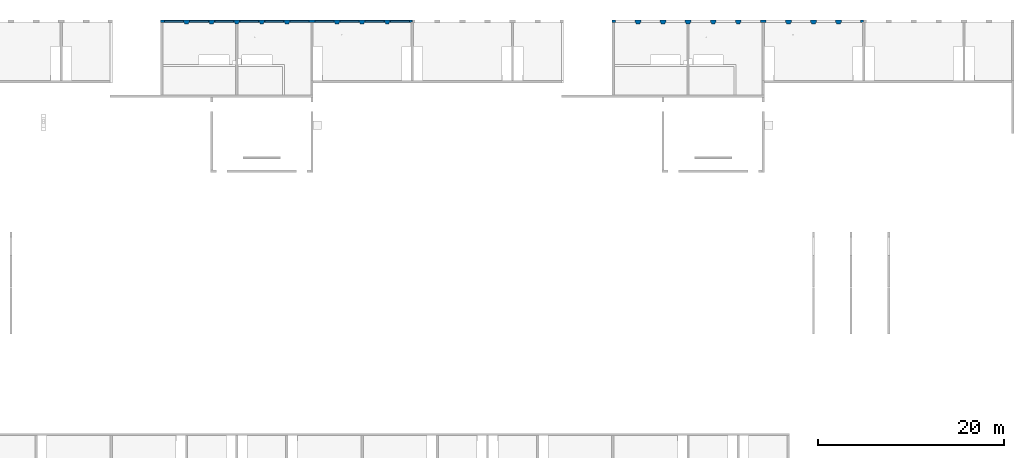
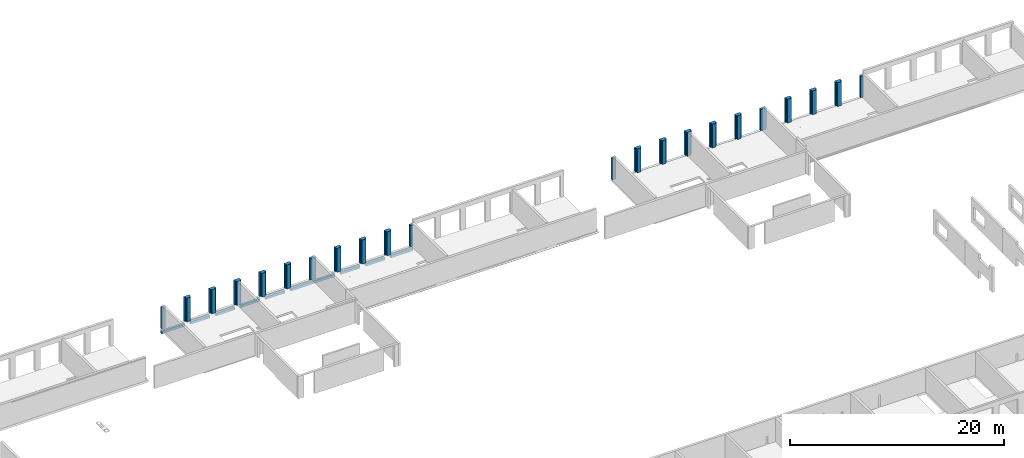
# One storey, part 1 of 12: 22 columns, 1 beam.
"""IFC2X3 building model written with IfcOpenShell, lengths in millimetres."""

from ifc_helpers import new_model, entity, si_unit, converted_unit, derived_unit, direction, frame, frame_2d, origin, origin_2d_with_axis, place, context, subcontext, project, spatial, polyline, rectangle, outline, extrude, source, transform, mapped, material, type_object, type_shapes, element, save


model = new_model("IFC2X3")

# Units and contexts
model_context = context("Model", 3, precision=0.01, world=origin(), true_north=direction((6.12303176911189e-17, 1.0)))
body_context = subcontext(model_context, "Body", "Model", "MODEL_VIEW")
ifc_project = project(units=[si_unit("LENGTHUNIT", "METRE", prefix="MILLI"), si_unit("AREAUNIT", "SQUARE_METRE"), si_unit("VOLUMEUNIT", "CUBIC_METRE"), converted_unit("PLANEANGLEUNIT", "DEGREE", entity("IfcRatioMeasure", 0.0174532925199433), si_unit("PLANEANGLEUNIT", "RADIAN"), dimensions=[0, 0, 0, 0, 0, 0, 0]), si_unit("MASSUNIT", "GRAM", prefix="KILO"), derived_unit("MASSDENSITYUNIT", [(si_unit("MASSUNIT", "GRAM", prefix="KILO"), 1), (si_unit("LENGTHUNIT", "METRE"), -3)]), si_unit("TIMEUNIT", "SECOND"), si_unit("FREQUENCYUNIT", "HERTZ"), si_unit("THERMODYNAMICTEMPERATUREUNIT", "DEGREE_CELSIUS"), derived_unit("THERMALTRANSMITTANCEUNIT", [(si_unit("MASSUNIT", "GRAM", prefix="KILO"), 1), (si_unit("THERMODYNAMICTEMPERATUREUNIT", "KELVIN"), -1), (si_unit("TIMEUNIT", "SECOND"), -3)]), derived_unit("VOLUMETRICFLOWRATEUNIT", [(si_unit("LENGTHUNIT", "METRE"), 3), (si_unit("TIMEUNIT", "SECOND"), -1)]), si_unit("ELECTRICCURRENTUNIT", "AMPERE"), si_unit("ELECTRICVOLTAGEUNIT", "VOLT"), si_unit("POWERUNIT", "WATT"), si_unit("FORCEUNIT", "NEWTON", prefix="KILO"), si_unit("ILLUMINANCEUNIT", "LUX"), si_unit("LUMINOUSFLUXUNIT", "LUMEN"), si_unit("LUMINOUSINTENSITYUNIT", "CANDELA"), derived_unit("USERDEFINED", [(si_unit("MASSUNIT", "GRAM", prefix="KILO"), -1), (si_unit("LENGTHUNIT", "METRE"), -2), (si_unit("TIMEUNIT", "SECOND"), 3), (si_unit("LUMINOUSFLUXUNIT", "LUMEN"), 1)]), derived_unit("LINEARVELOCITYUNIT", [(si_unit("LENGTHUNIT", "METRE"), 1), (si_unit("TIMEUNIT", "SECOND"), -1)]), si_unit("PRESSUREUNIT", "PASCAL"), derived_unit("USERDEFINED", [(si_unit("LENGTHUNIT", "METRE"), -2), (si_unit("MASSUNIT", "GRAM", prefix="KILO"), 1), (si_unit("TIMEUNIT", "SECOND"), -2)])], contexts=[model_context])

# Site, building, storey
site_placement = place(None, origin())
site = spatial("IfcSite", under=ifc_project, at=site_placement, Name="Default", CompositionType="ELEMENT")
building_placement = place(site_placement, origin())
building = spatial("IfcBuilding", under=site, at=building_placement, Name="niet gebruiken", CompositionType="ELEMENT")
storey_placement = place(building_placement, frame((0.0, 0.0, 6660.0)))
storey = spatial("IfcBuildingStorey", under=building, at=storey_placement, Name="02 tweede verdieping", CompositionType="ELEMENT", Elevation=6660.00000000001)

# Columns
ifc_material = material(Name="NLRS_f2_beton ihwg")
column_type_1 = type_object("IfcColumnType", Name="620x410/105x160/105x160", PredefinedType="COLUMN", material=ifc_material)
shared_shape_1 = source(origin(), body_context, "Body", "SweptSolid", [
    extrude(outline(polyline([(-227.499999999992, -310.0), (22.5000000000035, -310.0), (22.5000000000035, -205.0), (182.500000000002, -205.0), (182.500000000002, 205.0), (22.5000000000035, 205.0), (22.5000000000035, 310.0), (-227.499999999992, 310.0), (-227.499999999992, -310.0)])), frame((54000.0, 53028.5, 6570.0), z_axis=(0.0, 0.0, 1.0), x_axis=(0.0, -1.0, 0.0)), (0.0, 0.0, 1.0), 2720.0),
])
type_shapes(column_type_1, [shared_shape_1])
column_1_placement = place(storey_placement, frame((0.0, 0.0, -6660.0)))
element("IfcColumn", 1, at=column_1_placement, inside=storey, type_object=column_type_1, material=ifc_material, Name="NLRS_28.11_SCO_TLB_beton kolom ihwg dubbele sponning_gen:620x410/105x160/105x160", ObjectType="620x410/105x160/105x160", context=body_context, shape_type="MappedRepresentation", body=[
    mapped(shared_shape_1, transform((0.0, 0.0, 0.0), scale=1.0)),
])
column_type_2 = type_object("IfcColumnType", Name="620x410/105x160/105x160", PredefinedType="COLUMN", material=ifc_material)
shared_shape_2 = source(origin(), body_context, "Body", "SweptSolid", [
    extrude(outline(polyline([(-227.499999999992, -310.0), (22.5000000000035, -310.0), (22.5000000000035, -205.0), (182.500000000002, -205.0), (182.500000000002, 205.0), (22.5000000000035, 205.0), (22.5000000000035, 310.0), (-227.499999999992, 310.0), (-227.499999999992, -310.0)])), frame((51300.0, 53028.5, 6570.0), z_axis=(0.0, 0.0, 1.0), x_axis=(0.0, -1.0, 0.0)), (0.0, 0.0, 1.0), 2720.0),
])
type_shapes(column_type_2, [shared_shape_2])
column_2_placement = place(storey_placement, frame((0.0, 0.0, -6660.0)))
element("IfcColumn", 2, at=column_2_placement, inside=storey, type_object=column_type_2, material=ifc_material, Name="NLRS_28.11_SCO_TLB_beton kolom ihwg dubbele sponning_gen:620x410/105x160/105x160", ObjectType="620x410/105x160/105x160", context=body_context, shape_type="MappedRepresentation", body=[
    mapped(shared_shape_2, transform((0.0, 0.0, 0.0), scale=1.0)),
])
column_type_3 = type_object("IfcColumnType", Name="620x410/105x160/105x160", PredefinedType="COLUMN", material=ifc_material)
shared_shape_3 = source(origin(), body_context, "Body", "SweptSolid", [
    extrude(outline(polyline([(-227.499999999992, -310.0), (22.5000000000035, -310.0), (22.5000000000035, -205.0), (182.500000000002, -205.0), (182.500000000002, 205.0), (22.5000000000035, 205.0), (22.5000000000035, 310.0), (-227.499999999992, 310.0), (-227.499999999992, -310.0)])), frame((45900.0, 53028.5, 6570.0), z_axis=(0.0, 0.0, 1.0), x_axis=(0.0, -1.0, 0.0)), (0.0, 0.0, 1.0), 2720.0),
])
type_shapes(column_type_3, [shared_shape_3])
column_3_placement = place(storey_placement, frame((0.0, 0.0, -6660.0)))
element("IfcColumn", 3, at=column_3_placement, inside=storey, type_object=column_type_3, material=ifc_material, Name="NLRS_28.11_SCO_TLB_beton kolom ihwg dubbele sponning_gen:620x410/105x160/105x160", ObjectType="620x410/105x160/105x160", context=body_context, shape_type="MappedRepresentation", body=[
    mapped(shared_shape_3, transform((0.0, 0.0, 0.0), scale=1.0)),
])
column_type_4 = type_object("IfcColumnType", Name="620x410/105x160/105x160", PredefinedType="COLUMN", material=ifc_material)
shared_shape_4 = source(origin(), body_context, "Body", "SweptSolid", [
    extrude(outline(polyline([(-227.499999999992, -310.0), (22.5000000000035, -310.0), (22.5000000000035, -205.0), (182.500000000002, -205.0), (182.500000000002, 205.0), (22.5000000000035, 205.0), (22.5000000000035, 310.0), (-227.499999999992, 310.0), (-227.499999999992, -310.0)])), frame((43200.0, 53028.5, 6570.0), z_axis=(0.0, 0.0, 1.0), x_axis=(0.0, -1.0, 0.0)), (0.0, 0.0, 1.0), 2720.0),
])
type_shapes(column_type_4, [shared_shape_4])
column_4_placement = place(storey_placement, frame((0.0, 0.0, -6660.0)))
element("IfcColumn", 4, at=column_4_placement, inside=storey, type_object=column_type_4, material=ifc_material, Name="NLRS_28.11_SCO_TLB_beton kolom ihwg dubbele sponning_gen:620x410/105x160/105x160", ObjectType="620x410/105x160/105x160", context=body_context, shape_type="MappedRepresentation", body=[
    mapped(shared_shape_4, transform((0.0, 0.0, 0.0), scale=1.0)),
])
column_type_5 = type_object("IfcColumnType", Name="620x410/105x160/105x160", PredefinedType="COLUMN", material=ifc_material)
shared_shape_5 = source(origin(), body_context, "Body", "SweptSolid", [
    extrude(outline(polyline([(-227.499999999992, -310.0), (22.5000000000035, -310.0), (22.5000000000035, -205.0), (182.500000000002, -205.0), (182.500000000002, 205.0), (22.5000000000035, 205.0), (22.5000000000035, 310.0), (-227.499999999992, 310.0), (-227.499999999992, -310.0)])), frame((40500.0, 53028.5, 6570.0), z_axis=(0.0, 0.0, 1.0), x_axis=(0.0, -1.0, 0.0)), (0.0, 0.0, 1.0), 2720.0),
])
type_shapes(column_type_5, [shared_shape_5])
column_5_placement = place(storey_placement, frame((0.0, 0.0, -6660.0)))
element("IfcColumn", 5, at=column_5_placement, inside=storey, type_object=column_type_5, material=ifc_material, Name="NLRS_28.11_SCO_TLB_beton kolom ihwg dubbele sponning_gen:620x410/105x160/105x160", ObjectType="620x410/105x160/105x160", context=body_context, shape_type="MappedRepresentation", body=[
    mapped(shared_shape_5, transform((0.0, 0.0, 0.0), scale=1.0)),
])
column_type_6 = type_object("IfcColumnType", Name="620x410/105x160/105x160", PredefinedType="COLUMN", material=ifc_material)
shared_shape_6 = source(origin(), body_context, "Body", "SweptSolid", [
    extrude(outline(polyline([(-227.5, -310.0), (22.4999999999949, -310.0), (22.4999999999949, -205.0), (182.499999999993, -205.0), (182.499999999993, 205.0), (22.4999999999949, 205.0), (22.4999999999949, 310.0), (-227.5, 310.0), (-227.5, -310.0)])), frame((37800.0, 53028.5, 6570.0), z_axis=(0.0, 0.0, 1.0), x_axis=(0.0, -1.0, 0.0)), (0.0, 0.0, 1.0), 2720.0),
])
type_shapes(column_type_6, [shared_shape_6])
column_6_placement = place(storey_placement, frame((0.0, 0.0, -6660.0)))
element("IfcColumn", 6, at=column_6_placement, inside=storey, type_object=column_type_6, material=ifc_material, Name="NLRS_28.11_SCO_TLB_beton kolom ihwg dubbele sponning_gen:620x410/105x160/105x160", ObjectType="620x410/105x160/105x160", context=body_context, shape_type="MappedRepresentation", body=[
    mapped(shared_shape_6, transform((0.0, 0.0, 0.0), scale=1.0)),
])
column_type_7 = type_object("IfcColumnType", Name="620x410/105x160/105x160", PredefinedType="COLUMN", material=ifc_material)
shared_shape_7 = source(origin(), body_context, "Body", "SweptSolid", [
    extrude(outline(polyline([(-227.5, -310.0), (22.4999999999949, -310.0), (22.4999999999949, -205.0), (182.499999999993, -205.0), (182.499999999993, 205.0), (22.4999999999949, 205.0), (22.4999999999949, 310.0), (-227.5, 310.0), (-227.5, -310.0)])), frame((35100.0, 53028.5, 6570.0), z_axis=(0.0, 0.0, 1.0), x_axis=(0.0, -1.0, 0.0)), (0.0, 0.0, 1.0), 2720.0),
])
type_shapes(column_type_7, [shared_shape_7])
column_7_placement = place(storey_placement, frame((0.0, 0.0, -6660.0)))
element("IfcColumn", 7, at=column_7_placement, inside=storey, type_object=column_type_7, material=ifc_material, Name="NLRS_28.11_SCO_TLB_beton kolom ihwg dubbele sponning_gen:620x410/105x160/105x160", ObjectType="620x410/105x160/105x160", context=body_context, shape_type="MappedRepresentation", body=[
    mapped(shared_shape_7, transform((0.0, 0.0, 0.0), scale=1.0)),
])
column_type_8 = type_object("IfcColumnType", Name="410x250", PredefinedType="COLUMN", material=ifc_material)
shared_shape_8 = source(origin(), body_context, "Body", "SweptSolid", [
    extrude(rectangle(XDim=250.000000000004, YDim=410.000000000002, at=origin_2d_with_axis()), frame((32505.0, 53131.0, 6570.0), z_axis=(0.0, 0.0, 1.0), x_axis=(0.0, -1.0, 0.0)), (0.0, 0.0, 1.0), 2440.0),
])
type_shapes(column_type_8, [shared_shape_8])
column_8_placement = place(storey_placement, frame((0.0, 0.0, -6660.0)))
element("IfcColumn", 8, at=column_8_placement, inside=storey, type_object=column_type_8, material=ifc_material, Name="NLRS_28.11_SCO_TLB_beton kolom ihwg_gen:410x250", ObjectType="410x250", context=body_context, shape_type="MappedRepresentation", body=[
    mapped(shared_shape_8, transform((0.0, 0.0, 0.0), scale=1.0)),
])
column_type_9 = type_object("IfcColumnType", Name="620x250", PredefinedType="COLUMN", material=ifc_material)
shared_shape_9 = source(origin(), body_context, "Body", "SweptSolid", [
    extrude(rectangle(XDim=250.000000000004, YDim=619.999999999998, at=origin_2d_with_axis()), frame((48600.0, 53131.0, 6570.0), z_axis=(0.0, 0.0, 1.0), x_axis=(0.0, -1.0, 0.0)), (0.0, 0.0, 1.0), 2440.0),
])
type_shapes(column_type_9, [shared_shape_9])
column_9_placement = place(storey_placement, frame((0.0, 0.0, -6660.0)))
element("IfcColumn", 9, at=column_9_placement, inside=storey, type_object=column_type_9, material=ifc_material, Name="NLRS_28.11_SCO_TLB_beton kolom ihwg_gen:620x250", ObjectType="620x250", context=body_context, shape_type="MappedRepresentation", body=[
    mapped(shared_shape_9, transform((0.0, 0.0, 0.0), scale=1.0)),
])
column_type_10 = type_object("IfcColumnType", Name="620x410/105x160/105x160", PredefinedType="COLUMN", material=ifc_material)
shared_shape_10 = source(origin(), body_context, "Body", "SweptSolid", [
    extrude(outline(polyline([(-227.5, -310.0), (22.4999999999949, -310.0), (22.4999999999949, -205.0), (182.499999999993, -205.0), (182.499999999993, 205.0), (22.4999999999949, 205.0), (22.4999999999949, 310.0), (-227.5, 310.0), (-227.5, -310.0)])), frame((56700.0, 53028.5, 6570.0), z_axis=(0.0, 0.0, 1.0), x_axis=(0.0, -1.0, 0.0)), (0.0, 0.0, 1.0), 2720.0),
])
type_shapes(column_type_10, [shared_shape_10])
column_10_placement = place(storey_placement, frame((0.0, 0.0, -6660.0)))
element("IfcColumn", 10, at=column_10_placement, inside=storey, type_object=column_type_10, material=ifc_material, Name="NLRS_28.11_SCO_TLB_beton kolom ihwg dubbele sponning_gen:620x410/105x160/105x160", ObjectType="620x410/105x160/105x160", context=body_context, shape_type="MappedRepresentation", body=[
    mapped(shared_shape_10, transform((0.0, 0.0, 0.0), scale=1.0)),
])
column_type_11 = type_object("IfcColumnType", Name="620x410/105x160/105x160", PredefinedType="COLUMN", material=ifc_material)
shared_shape_11 = source(origin(), body_context, "Body", "SweptSolid", [
    extrude(outline(polyline([(-227.5, -310.0), (22.4999999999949, -310.0), (22.4999999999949, -205.0), (182.499999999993, -205.0), (182.499999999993, 205.0), (22.4999999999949, 205.0), (22.4999999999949, 310.0), (-227.5, 310.0), (-227.5, -310.0)])), frame((102600.0, 53028.4999999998, 6570.0), z_axis=(0.0, 0.0, 1.0), x_axis=(0.0, -1.0, 0.0)), (0.0, 0.0, 1.0), 2720.0),
])
type_shapes(column_type_11, [shared_shape_11])
column_11_placement = place(storey_placement, frame((0.0, 0.0, -6660.0)))
element("IfcColumn", 11, at=column_11_placement, inside=storey, type_object=column_type_11, material=ifc_material, Name="NLRS_28.11_SCO_TLB_beton kolom ihwg dubbele sponning_gen:620x410/105x160/105x160", ObjectType="620x410/105x160/105x160", context=body_context, shape_type="MappedRepresentation", body=[
    mapped(shared_shape_11, transform((0.0, 0.0, 0.0), scale=1.0)),
])
column_type_12 = type_object("IfcColumnType", Name="620x410/105x160/105x160", PredefinedType="COLUMN", material=ifc_material)
shared_shape_12 = source(origin(), body_context, "Body", "SweptSolid", [
    extrude(outline(polyline([(-227.499999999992, -310.0), (22.5000000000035, -310.0), (22.5000000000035, -205.0), (182.500000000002, -205.0), (182.500000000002, 205.0), (22.5000000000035, 205.0), (22.5000000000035, 310.0), (-227.499999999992, 310.0), (-227.499999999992, -310.0)])), frame((99900.0, 53028.4999999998, 6570.0), z_axis=(0.0, 0.0, 1.0), x_axis=(0.0, -1.0, 0.0)), (0.0, 0.0, 1.0), 2720.0),
])
type_shapes(column_type_12, [shared_shape_12])
column_12_placement = place(storey_placement, frame((0.0, 0.0, -6660.0)))
element("IfcColumn", 12, at=column_12_placement, inside=storey, type_object=column_type_12, material=ifc_material, Name="NLRS_28.11_SCO_TLB_beton kolom ihwg dubbele sponning_gen:620x410/105x160/105x160", ObjectType="620x410/105x160/105x160", context=body_context, shape_type="MappedRepresentation", body=[
    mapped(shared_shape_12, transform((0.0, 0.0, 0.0), scale=1.0)),
])
column_type_13 = type_object("IfcColumnType", Name="620x410/105x160/105x160", PredefinedType="COLUMN", material=ifc_material)
shared_shape_13 = source(origin(), body_context, "Body", "SweptSolid", [
    extrude(outline(polyline([(-227.499999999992, -310.0), (22.5000000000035, -310.0), (22.5000000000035, -205.0), (182.500000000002, -205.0), (182.500000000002, 205.0), (22.5000000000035, 205.0), (22.5000000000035, 310.0), (-227.499999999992, 310.0), (-227.499999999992, -310.0)])), frame((94500.0, 53028.4999999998, 6570.0), z_axis=(0.0, 0.0, 1.0), x_axis=(0.0, -1.0, 0.0)), (0.0, 0.0, 1.0), 2720.0),
])
type_shapes(column_type_13, [shared_shape_13])
column_13_placement = place(storey_placement, frame((0.0, 0.0, -6660.0)))
element("IfcColumn", 13, at=column_13_placement, inside=storey, type_object=column_type_13, material=ifc_material, Name="NLRS_28.11_SCO_TLB_beton kolom ihwg dubbele sponning_gen:620x410/105x160/105x160", ObjectType="620x410/105x160/105x160", context=body_context, shape_type="MappedRepresentation", body=[
    mapped(shared_shape_13, transform((0.0, 0.0, 0.0), scale=1.0)),
])
column_type_14 = type_object("IfcColumnType", Name="620x410/105x160/105x160", PredefinedType="COLUMN", material=ifc_material)
shared_shape_14 = source(origin(), body_context, "Body", "SweptSolid", [
    extrude(outline(polyline([(-227.499999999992, -310.0), (22.5000000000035, -310.0), (22.5000000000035, -205.0), (182.500000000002, -205.0), (182.500000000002, 205.0), (22.4999999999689, 205.0), (22.5000000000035, 310.0), (-227.499999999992, 310.0), (-227.499999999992, -310.0)])), frame((91800.0, 53028.4999999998, 6570.0), z_axis=(0.0, 0.0, 1.0), x_axis=(0.0, -1.0, 0.0)), (0.0, 0.0, 1.0), 2719.99999999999),
])
type_shapes(column_type_14, [shared_shape_14])
column_14_placement = place(storey_placement, frame((0.0, 0.0, -6660.0)))
element("IfcColumn", 14, at=column_14_placement, inside=storey, type_object=column_type_14, material=ifc_material, Name="NLRS_28.11_SCO_TLB_beton kolom ihwg dubbele sponning_gen:620x410/105x160/105x160", ObjectType="620x410/105x160/105x160", context=body_context, shape_type="MappedRepresentation", body=[
    mapped(shared_shape_14, transform((0.0, 0.0, 0.0), scale=1.0)),
])
column_type_15 = type_object("IfcColumnType", Name="620x410/105x160/105x160", PredefinedType="COLUMN", material=ifc_material)
shared_shape_15 = source(origin(), body_context, "Body", "SweptSolid", [
    extrude(outline(polyline([(-227.499999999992, -310.0), (22.5000000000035, -310.0), (22.5000000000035, -205.0), (182.500000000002, -205.0), (182.500000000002, 205.0), (22.5000000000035, 205.0), (22.5000000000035, 310.0), (-227.499999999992, 310.0), (-227.499999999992, -310.0)])), frame((89100.0, 53028.4999999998, 6570.0), z_axis=(0.0, 0.0, 1.0), x_axis=(0.0, -1.0, 0.0)), (0.0, 0.0, 1.0), 2720.0),
])
type_shapes(column_type_15, [shared_shape_15])
column_15_placement = place(storey_placement, frame((0.0, 0.0, -6660.0)))
element("IfcColumn", 15, at=column_15_placement, inside=storey, type_object=column_type_15, material=ifc_material, Name="NLRS_28.11_SCO_TLB_beton kolom ihwg dubbele sponning_gen:620x410/105x160/105x160", ObjectType="620x410/105x160/105x160", context=body_context, shape_type="MappedRepresentation", body=[
    mapped(shared_shape_15, transform((0.0, 0.0, 0.0), scale=1.0)),
])
column_type_16 = type_object("IfcColumnType", Name="620x410/105x160/105x160", PredefinedType="COLUMN", material=ifc_material)
shared_shape_16 = source(origin(), body_context, "Body", "SweptSolid", [
    extrude(outline(polyline([(-227.499999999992, -310.0), (22.5000000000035, -310.0), (22.5000000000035, -205.0), (182.500000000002, -205.0), (182.500000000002, 205.0), (22.5000000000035, 205.0), (22.5000000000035, 310.0), (-227.499999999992, 310.0), (-227.499999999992, -310.0)])), frame((86400.0, 53028.4999999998, 6570.0), z_axis=(0.0, 0.0, 1.0), x_axis=(0.0, -1.0, 0.0)), (0.0, 0.0, 1.0), 2720.0),
])
type_shapes(column_type_16, [shared_shape_16])
column_16_placement = place(storey_placement, frame((0.0, 0.0, -6660.0)))
element("IfcColumn", 16, at=column_16_placement, inside=storey, type_object=column_type_16, material=ifc_material, Name="NLRS_28.11_SCO_TLB_beton kolom ihwg dubbele sponning_gen:620x410/105x160/105x160", ObjectType="620x410/105x160/105x160", context=body_context, shape_type="MappedRepresentation", body=[
    mapped(shared_shape_16, transform((0.0, 0.0, 0.0), scale=1.0)),
])
column_type_17 = type_object("IfcColumnType", Name="620x410/105x160/105x160", PredefinedType="COLUMN", material=ifc_material)
shared_shape_17 = source(origin(), body_context, "Body", "SweptSolid", [
    extrude(outline(polyline([(-227.5, -310.0), (22.4999999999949, -310.0), (22.4999999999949, -205.0), (182.499999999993, -205.0), (182.499999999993, 205.0), (22.4999999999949, 205.0), (22.4999999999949, 310.0), (-227.5, 310.0), (-227.5, -310.0)])), frame((83700.0, 53028.4999999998, 6570.0), z_axis=(0.0, 0.0, 1.0), x_axis=(0.0, -1.0, 0.0)), (0.0, 0.0, 1.0), 2720.0),
])
type_shapes(column_type_17, [shared_shape_17])
column_17_placement = place(storey_placement, frame((0.0, 0.0, -6660.0)))
element("IfcColumn", 17, at=column_17_placement, inside=storey, type_object=column_type_17, material=ifc_material, Name="NLRS_28.11_SCO_TLB_beton kolom ihwg dubbele sponning_gen:620x410/105x160/105x160", ObjectType="620x410/105x160/105x160", context=body_context, shape_type="MappedRepresentation", body=[
    mapped(shared_shape_17, transform((0.0, 0.0, 0.0), scale=1.0)),
])
column_type_18 = type_object("IfcColumnType", Name="410x250", PredefinedType="COLUMN", material=ifc_material)
shared_shape_18 = source(origin(), body_context, "Body", "SweptSolid", [
    extrude(rectangle(XDim=250.000000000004, YDim=409.999999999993, at=origin_2d_with_axis()), frame((81105.0, 53131.0, 6570.0), z_axis=(0.0, 0.0, 1.0), x_axis=(0.0, -1.0, 0.0)), (0.0, 0.0, 1.0), 2440.0),
])
type_shapes(column_type_18, [shared_shape_18])
column_18_placement = place(storey_placement, frame((0.0, 0.0, -6660.0)))
element("IfcColumn", 18, at=column_18_placement, inside=storey, type_object=column_type_18, material=ifc_material, Name="NLRS_28.11_SCO_TLB_beton kolom ihwg_gen:410x250", ObjectType="410x250", context=body_context, shape_type="MappedRepresentation", body=[
    mapped(shared_shape_18, transform((0.0, 0.0, 0.0), scale=1.0)),
])
column_type_19 = type_object("IfcColumnType", Name="620x250", PredefinedType="COLUMN", material=ifc_material)
shared_shape_19 = source(origin(), body_context, "Body", "SweptSolid", [
    extrude(rectangle(XDim=250.000000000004, YDim=619.999999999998, at=frame_2d((8.66151594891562e-12, 0.0), x_axis=(1.0, 0.0))), frame((97200.0, 53131.0, 6570.0), z_axis=(0.0, 0.0, 1.0), x_axis=(0.0, -1.0, 0.0)), (0.0, 0.0, 1.0), 2440.0),
])
type_shapes(column_type_19, [shared_shape_19])
column_19_placement = place(storey_placement, frame((0.0, 0.0, -6660.0)))
element("IfcColumn", 19, at=column_19_placement, inside=storey, type_object=column_type_19, material=ifc_material, Name="NLRS_28.11_SCO_TLB_beton kolom ihwg_gen:620x250", ObjectType="620x250", context=body_context, shape_type="MappedRepresentation", body=[
    mapped(shared_shape_19, transform((0.0, 0.0, 0.0), scale=1.0)),
])
column_type_20 = type_object("IfcColumnType", Name="620x410/105x160/105x160", PredefinedType="COLUMN", material=ifc_material)
shared_shape_20 = source(origin(), body_context, "Body", "SweptSolid", [
    extrude(outline(polyline([(-227.5, -310.0), (22.4999999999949, -310.0), (22.4999999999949, -205.0), (182.499999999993, -205.0), (182.499999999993, 205.0), (22.4999999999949, 205.0), (22.4999999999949, 310.0), (-227.5, 310.0), (-227.5, -310.0)])), frame((105300.0, 53028.4999999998, 6570.0), z_axis=(0.0, 0.0, 1.0), x_axis=(0.0, -1.0, 0.0)), (0.0, 0.0, 1.0), 2720.0),
])
type_shapes(column_type_20, [shared_shape_20])
column_20_placement = place(storey_placement, frame((0.0, 0.0, -6660.0)))
element("IfcColumn", 20, at=column_20_placement, inside=storey, type_object=column_type_20, material=ifc_material, Name="NLRS_28.11_SCO_TLB_beton kolom ihwg dubbele sponning_gen:620x410/105x160/105x160", ObjectType="620x410/105x160/105x160", context=body_context, shape_type="MappedRepresentation", body=[
    mapped(shared_shape_20, transform((0.0, 0.0, 0.0), scale=1.0)),
])
column_type_21 = type_object("IfcColumnType", Name="290x250", PredefinedType="COLUMN", material=ifc_material)
shared_shape_21 = source(origin(), body_context, "Body", "SweptSolid", [
    extrude(rectangle(XDim=250.000000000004, YDim=290.000000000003, at=origin_2d_with_axis()), frame((59235.0, 53131.0, 6570.0), z_axis=(0.0, 0.0, 1.0), x_axis=(0.0, -1.0, 0.0)), (0.0, 0.0, 1.0), 2440.0),
])
type_shapes(column_type_21, [shared_shape_21])
column_21_placement = place(storey_placement, frame((0.0, 0.0, -6660.0)))
element("IfcColumn", 21, at=column_21_placement, inside=storey, type_object=column_type_21, material=ifc_material, Name="NLRS_28.11_SCO_TLB_beton kolom ihwg_gen:290x250", ObjectType="290x250", context=body_context, shape_type="MappedRepresentation", body=[
    mapped(shared_shape_21, transform((0.0, 0.0, 0.0), scale=1.0)),
])
column_type_22 = type_object("IfcColumnType", Name="290x250", PredefinedType="COLUMN", material=ifc_material)
shared_shape_22 = source(origin(), body_context, "Body", "SweptSolid", [
    extrude(rectangle(XDim=250.000000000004, YDim=290.000000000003, at=frame_2d((-8.66151594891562e-12, 0.0), x_axis=(1.0, 0.0))), frame((107835.0, 53131.0, 6570.0), z_axis=(0.0, 0.0, 1.0), x_axis=(0.0, -1.0, 0.0)), (0.0, 0.0, 1.0), 2440.0),
])
type_shapes(column_type_22, [shared_shape_22])
column_22_placement = place(storey_placement, frame((0.0, 0.0, -6660.0)))
element("IfcColumn", 22, at=column_22_placement, inside=storey, type_object=column_type_22, material=ifc_material, Name="NLRS_28.11_SCO_TLB_beton kolom ihwg_gen:290x250", ObjectType="290x250", context=body_context, shape_type="MappedRepresentation", body=[
    mapped(shared_shape_22, transform((0.0, 0.0, 0.0), scale=1.0)),
])

# Beam
beam_type = type_object("IfcBeamType", Name="250x280", PredefinedType="BEAM", material=ifc_material)
shared_shape_23 = source(origin(), body_context, "Body", "SweptSolid", [
    extrude(rectangle(XDim=2489.99999999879, YDim=250.000000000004, at=frame_2d((278.333333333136, -6.03250782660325e-12), x_axis=(1.0, 0.0))), frame((33266.6666666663, 53131.0, 6040.0)), (0.0, 0.0, 1.0), 279.999999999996),
    extrude(rectangle(XDim=2370.00000000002, YDim=250.000000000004, at=frame_2d((298.333333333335, -1.77067249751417e-11), x_axis=(1.0, 0.0))), frame((58493.3333333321, 53131.0, 6040.0), z_axis=(0.0, 0.0, 1.0), x_axis=(-1.0, 0.0, 0.0)), (0.0, 0.0, 1.0), 279.999999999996),
    extrude(rectangle(XDim=2080.0, YDim=250.000000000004, at=frame_2d((8.64019966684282e-12, 0.0), x_axis=(1.0, 0.0))), frame((52650.0, 53131.0, 6040.0), z_axis=(0.0, 0.0, 1.0), x_axis=(-1.0, 0.0, 0.0)), (0.0, 0.0, 1.0), 279.999999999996),
    extrude(rectangle(XDim=2080.00000000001, YDim=250.000000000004, at=frame_2d((0.0, -8.66151594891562e-12), x_axis=(1.0, 0.0))), frame((55350.0, 53131.0, 6040.0)), (0.0, 0.0, 1.0), 279.999999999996),
    extrude(rectangle(XDim=4779.99999999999, YDim=249.999999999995, at=frame_2d((1.0481926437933e-09, 8.66151594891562e-12), x_axis=(1.0, 0.0))), frame((48600.0, 53131.0, 6040.0), z_axis=(0.0, 0.0, 1.0), x_axis=(-1.0, 0.0, 0.0)), (0.0, 0.0, 1.0), 279.999999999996),
    extrude(rectangle(XDim=2080.00000000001, YDim=250.000000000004, at=origin_2d_with_axis()), frame((44550.0, 53131.0, 6040.0), z_axis=(0.0, 0.0, 1.0), x_axis=(-1.0, 0.0, 0.0)), (0.0, 0.0, 1.0), 279.999999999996),
    extrude(rectangle(XDim=2079.99999999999, YDim=249.999999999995, at=frame_2d((0.0, 4.33431068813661e-12), x_axis=(1.0, 0.0))), frame((41850.0, 53131.0, 6040.0), z_axis=(0.0, 0.0, 1.0), x_axis=(-1.0, 0.0, 0.0)), (0.0, 0.0, 1.0), 279.999999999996),
    extrude(rectangle(XDim=2080.0, YDim=249.999999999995, at=frame_2d((-4.43378667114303e-12, -4.33431068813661e-12), x_axis=(1.0, 0.0))), frame((39150.0, 53131.0, 6040.0), z_axis=(0.0, 0.0, 1.0), x_axis=(-1.0, 0.0, 0.0)), (0.0, 0.0, 1.0), 279.999999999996),
    extrude(rectangle(XDim=2080.0, YDim=250.000000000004, at=frame_2d((2.1600499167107e-12, 0.0), x_axis=(1.0, 0.0))), frame((36450.0, 53131.0, 6040.0), z_axis=(0.0, 0.0, 1.0), x_axis=(-1.0, 0.0, 0.0)), (0.0, 0.0, 1.0), 279.999999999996),
])
type_shapes(beam_type, [shared_shape_23])
beam_placement = place(storey_placement, frame((0.0, 0.0, -6660.0)))
element("IfcBeam", 23, at=beam_placement, inside=storey, type_object=beam_type, material=ifc_material, Name="NLRS_28.11_SF_WPB_betonbalk ihwg recht_gen:250x280", ObjectType="250x280", context=body_context, shape_type="MappedRepresentation", body=[
    mapped(shared_shape_23, transform((0.0, 0.0, 0.0), scale=1.0)),
])

save(model, "model.ifc")
